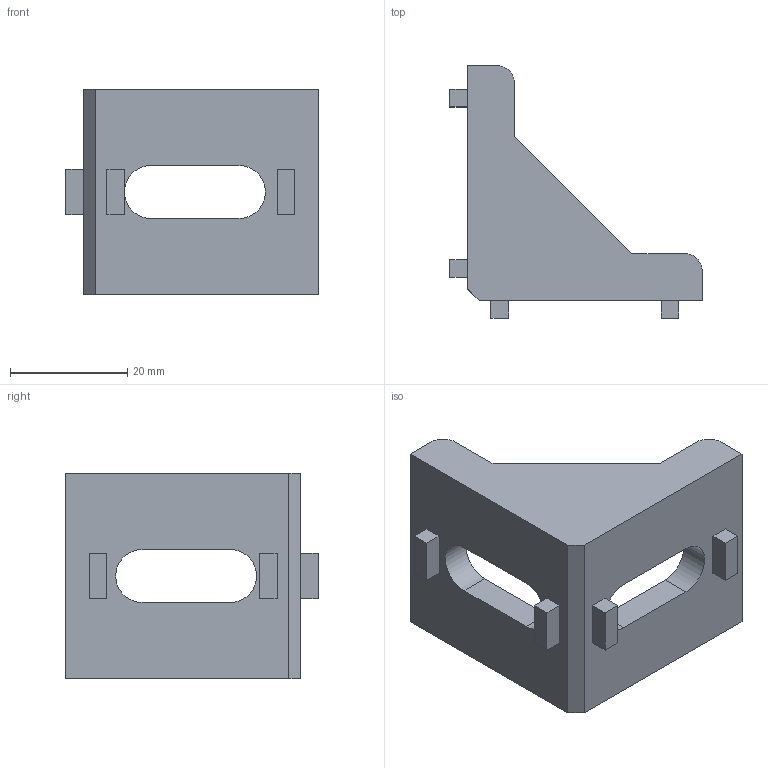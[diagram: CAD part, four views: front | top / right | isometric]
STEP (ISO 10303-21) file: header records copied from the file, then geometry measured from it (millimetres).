
FILE_DESCRIPTION((''),'2;1');
FILE_NAME('E:\catalogue and flyer\Profile catalogue 2015\Accessories JE info\Accessories-JE step file 31MAr16\JE-GE40x40-8.stp','2016-03-31T15:35:03',('h029'),(''),'Autodesk Inventor 11','Autodesk Inventor 11','');
FILE_SCHEMA(('AUTOMOTIVE_DESIGN { 1 0 10303 214 1 1 1 1 }'));
Length unit declared in the file: millimetre
Products named in the file (1): JE-GE40x40-8
Bounding box: 43 x 43 x 35 mm (x, y, z)
Volume: 14129.6 mm3; surface area: 7841 mm2
Topology: 1 solids, 1 shells, 49 faces, 127 edges, 83 vertices
Faces by surface type: plane 41, cylinder 8
Entity records: 1509 total; most frequent: CARTESIAN_POINT 260, ORIENTED_EDGE 254, DIRECTION 244, EDGE_CURVE 127, VECTOR 110, LINE 110, VERTEX_POINT 83, AXIS2_PLACEMENT_3D 67
